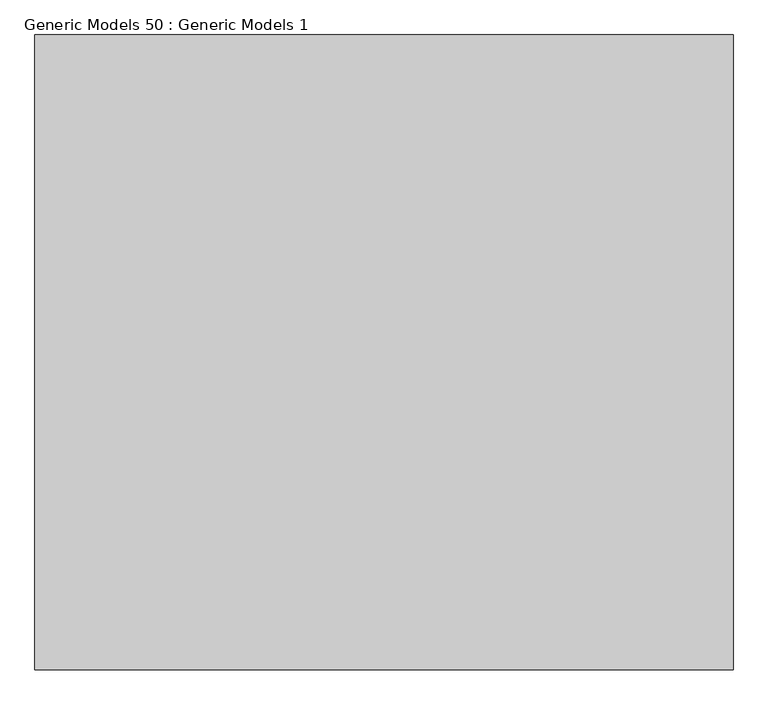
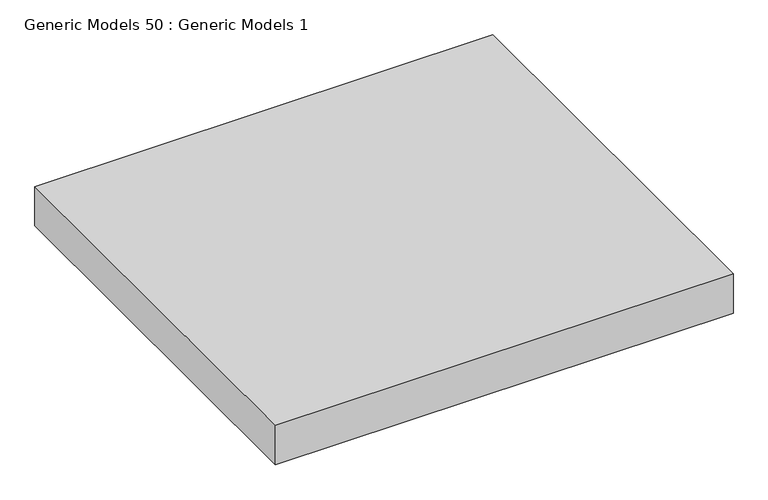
"""IFC4 building model written with IfcOpenShell, lengths in millimetres: proxy geometry, Generic Models 50 : Generic Models 1."""

import ifcopenshell
import ifcopenshell.guid

model = None  # the IFC model being written
_history = None  # IfcOwnerHistory: only IFC2X3 demands one
_inside = {}  # id of a spatial element -> (the spatial element, [elements in it])
_under = {}  # id of a project, library or spatial element -> (it, [spatial elements below it])
_declared = {}  # id of a project -> (the project, [libraries it declares])
_typed = {}  # id of a type object -> (the type object, [elements of that type])
_made_of = {}  # id of a material, layer set ... -> (it, [elements and type objects made of it])


def new_model(schema):
    """Start an empty IFC model of exactly this schema.

    Asked for "IFC4X3", IfcOpenShell would pick the latest addendum, in which some entities
    have other attributes; the version numbers below select the first issue.
    IFC2X3 requires an IfcOwnerHistory on every rooted entity: one is made here for all.
    """
    global model, _history
    if schema == "IFC4X3":
        model = ifcopenshell.file(schema_version=(4, 3, 0, 0))
    else:
        model = ifcopenshell.file(schema=schema)
    _inside.clear()
    _under.clear()
    _declared.clear()
    _typed.clear()
    _made_of.clear()
    _history = None
    if model.schema == "IFC2X3":
        org = make("IfcOrganization", Name="unknown")
        user = make(
            "IfcPersonAndOrganization",
            ThePerson=make("IfcPerson", FamilyName="unknown"),
            TheOrganization=org,
        )
        app = make(
            "IfcApplication",
            ApplicationDeveloper=org,
            Version="unknown",
            ApplicationFullName="unknown",
            ApplicationIdentifier="unknown",
        )
        _history = make(
            "IfcOwnerHistory",
            OwningUser=user,
            OwningApplication=app,
            ChangeAction="ADDED",
            CreationDate=0,
        )
    return model


def make(cls, **values):
    """One entity of the class cls with the attributes given. An attribute that is None is left unset."""
    return model.create_entity(
        cls, **{name: value for name, value in values.items() if value is not None}
    )


def rooted(cls, **values):
    """An entity with a GlobalId (a new one), such as an element, a storey or a relation."""
    return make(cls, GlobalId=ifcopenshell.guid.new(), OwnerHistory=_history, **values)


def si_unit(unit_type, name, prefix=None):
    """IfcSIUnit, for example si_unit("LENGTHUNIT", "METRE", prefix="MILLI")."""
    return make("IfcSIUnit", UnitType=unit_type, Prefix=prefix, Name=name)


def assignment(units):
    """IfcUnitAssignment: the units of a project."""
    return None if units is None else make("IfcUnitAssignment", Units=units)


def point(xyz):
    """IfcCartesianPoint."""
    return None if xyz is None else make("IfcCartesianPoint", Coordinates=xyz)


def direction(xyz):
    """IfcDirection."""
    return None if xyz is None else make("IfcDirection", DirectionRatios=xyz)


def frame(location, z_axis=None, x_axis=None):
    """IfcAxis2Placement3D, a coordinate frame: its origin and axes. An axis left out is left unset."""
    return make(
        "IfcAxis2Placement3D",
        Location=point(location),
        Axis=direction(z_axis),
        RefDirection=direction(x_axis),
    )


def origin():
    """The frame at (0, 0, 0) with its axes left unset."""
    return frame((0.0, 0.0, 0.0))


def origin_with_axes():
    """The frame at (0, 0, 0) with the z axis (0, 0, 1) and the x axis (1, 0, 0) written out."""
    return frame((0.0, 0.0, 0.0), z_axis=(0.0, 0.0, 1.0), x_axis=(1.0, 0.0, 0.0))


def place(relative_to, where):
    """IfcLocalPlacement: puts the frame where relative to a parent placement (None: the world)."""
    return make(
        "IfcLocalPlacement", PlacementRelTo=relative_to, RelativePlacement=where
    )


def context(
    kind, dimensions, precision=None, world=None, true_north=None, identifier=None
):
    """IfcGeometricRepresentationContext, for example the 3D "Model" context."""
    return make(
        "IfcGeometricRepresentationContext",
        ContextIdentifier=identifier,
        ContextType=kind,
        CoordinateSpaceDimension=dimensions,
        Precision=precision,
        WorldCoordinateSystem=world,
        TrueNorth=true_north,
    )


def project(units=None, contexts=None):
    """IfcProject with its units and contexts."""
    return rooted(
        "IfcProject",
        Name="project",
        RepresentationContexts=contexts,
        UnitsInContext=assignment(units),
    )


def spatial(cls, under=None, at=None, **own):
    """A site, building, storey or space (cls), placed at a placement, below another one or the project."""
    s = rooted(cls, ObjectPlacement=at, **own)
    if under is not None:
        _under.setdefault(under.id(), (under, []))[1].append(s)
    return s


def polyline(points):
    """IfcPolyline through the points."""
    return make("IfcPolyline", Points=[point(p) for p in points])


def outline(outer, holes=None, kind="AREA"):
    """IfcArbitraryClosedProfileDef: a profile drawn as a closed curve; with holes, ...WithVoids."""
    if holes is None:
        return make("IfcArbitraryClosedProfileDef", ProfileType=kind, OuterCurve=outer)
    return make(
        "IfcArbitraryProfileDefWithVoids",
        ProfileType=kind,
        OuterCurve=outer,
        InnerCurves=holes,
    )


def extrude(swept, where, along, depth):
    """IfcExtrudedAreaSolid: the profile swept, set in the frame where, extruded along a direction by depth."""
    return make(
        "IfcExtrudedAreaSolid",
        SweptArea=swept,
        Position=where,
        ExtrudedDirection=direction(along),
        Depth=depth,
    )


def shape(context_of_items, identifier, shape_type, items):
    """IfcShapeRepresentation: the items that make up one representation, for example the "Body"."""
    return make(
        "IfcShapeRepresentation",
        ContextOfItems=context_of_items,
        RepresentationIdentifier=identifier,
        RepresentationType=shape_type,
        Items=items,
    )


def source(mapping_origin, context_of_items, identifier, shape_type, items):
    """IfcRepresentationMap: a shape defined once, which mapped items show again and again."""
    return make(
        "IfcRepresentationMap",
        MappingOrigin=mapping_origin,
        MappedRepresentation=shape(context_of_items, identifier, shape_type, items),
    )


def transform(
    local_origin,
    x_axis=None,
    y_axis=None,
    z_axis=None,
    scale=None,
    scale2=None,
    scale3=None,
    uniform=True,
):
    """IfcCartesianTransformationOperator3D, or its non-uniform kind. x_axis, y_axis, z_axis: its Axis1, 2, 3."""
    if uniform:
        return make(
            "IfcCartesianTransformationOperator3D",
            Axis1=direction(x_axis),
            Axis2=direction(y_axis),
            LocalOrigin=point(local_origin),
            Scale=scale,
            Axis3=direction(z_axis),
        )
    return make(
        "IfcCartesianTransformationOperator3DnonUniform",
        Axis1=direction(x_axis),
        Axis2=direction(y_axis),
        LocalOrigin=point(local_origin),
        Scale=scale,
        Axis3=direction(z_axis),
        Scale2=scale2,
        Scale3=scale3,
    )


def mapped(mapping_source, mapping_target):
    """IfcMappedItem: shows the shape of a source again, moved by a transform."""
    return make(
        "IfcMappedItem", MappingSource=mapping_source, MappingTarget=mapping_target
    )


def made_of(thing, what):
    """Note that an element or type object is made of a material, layer set ...; save() writes the relation."""
    if what is not None:
        _made_of.setdefault(what.id(), (what, []))[1].append(thing)
    return thing


def element(
    cls,
    number,
    at=None,
    inside=None,
    cuts=None,
    type_object=None,
    material=None,
    context=None,
    identifier="Body",
    shape_type=None,
    held_by="IfcProductDefinitionShape",
    body=None,
    shapes=None,
    **own,
):
    """One element of the class cls, such as IfcWall. Its Tag is "e" and its number.

    at: its placement. inside: the storey or other place that contains it. cuts: it is an
    opening in that element (IfcRelVoidsElement). A single representation is given by context,
    identifier, shape_type and body (its items); several are given by shapes. held_by: the class
    of the entity that holds the representations. save() writes the other relations.
    """
    e = rooted(cls, Tag="e%d" % number, ObjectPlacement=at, **own)
    if body is not None:
        shapes = [shape(context, identifier, shape_type, body)]
    if shapes is not None:
        e.Representation = make(held_by, Representations=shapes)
    if inside is not None:
        _inside.setdefault(inside.id(), (inside, []))[1].append(e)
    if cuts is not None:
        rooted(
            "IfcRelVoidsElement", RelatingBuildingElement=cuts, RelatedOpeningElement=e
        )
    if type_object is not None:
        _typed.setdefault(type_object.id(), (type_object, []))[1].append(e)
    return made_of(e, material)


def aggregate(whole, parts):
    """IfcRelAggregates: a whole, such as a stair, and the parts it consists of."""
    return rooted("IfcRelAggregates", RelatingObject=whole, RelatedObjects=parts)


def save(model, path):
    """Write the relations noted so far, then the file.

    IfcRelAggregates (storeys below a building ...), IfcRelContainedInSpatialStructure (elements
    in a storey), IfcRelDefinesByType, IfcRelAssociatesMaterial and IfcRelDeclares: one each for
    every whole, place, type object, material and project.
    """
    for whole, parts in _under.values():
        aggregate(whole, parts)
    for where, things in _inside.values():
        rooted(
            "IfcRelContainedInSpatialStructure",
            RelatedElements=things,
            RelatingStructure=where,
        )
    for kind, things in _typed.values():
        rooted("IfcRelDefinesByType", RelatedObjects=things, RelatingType=kind)
    for what, things in _made_of.values():
        rooted("IfcRelAssociatesMaterial", RelatedObjects=things, RelatingMaterial=what)
    for by, libraries in _declared.values():
        rooted("IfcRelDeclares", RelatingContext=by, RelatedDefinitions=libraries)
    model.write(path)


def generic_models_50_generic_models_1_aca8a060(model_context):
    return source(origin(), model_context, "Body", "SweptSolid", [
        extrude(outline(polyline([(-1704.8268345, -5024.1855869), (-1704.8268345, -4024.1855869), (-604.8268345, -4024.1855869), (-604.8268345, -5024.1855869), (-1704.8268345, -5024.1855869)])), origin_with_axes(), (0.0, 0.0, 1.0), 100.0),
    ])


if __name__ == "__main__":
    model = new_model("IFC4")
    model_context = context("Model", 3, world=origin())
    ifc_project = project(units=[si_unit("LENGTHUNIT", "METRE", prefix="MILLI")], contexts=[model_context])
    site = spatial("IfcSite", under=ifc_project)
    building = spatial("IfcBuilding", under=site)
    placement = place(None, origin())
    generic_models_50_generic_models_1_shape = generic_models_50_generic_models_1_aca8a060(model_context)
    element("IfcBuildingElementProxy", 1, Name="Generic Models 50 : Generic Models 1", ObjectType="Generic Models 50 : Generic Models 1", at=placement, inside=building, context=model_context, shape_type="MappedRepresentation", body=[
        mapped(generic_models_50_generic_models_1_shape, transform((0.0, 0.0, 0.0), x_axis=(1.0, 0.0, 0.0), y_axis=(0.0, 1.0, 0.0), z_axis=(0.0, 0.0, 1.0))),
    ])
    save(model, "model.ifc")
